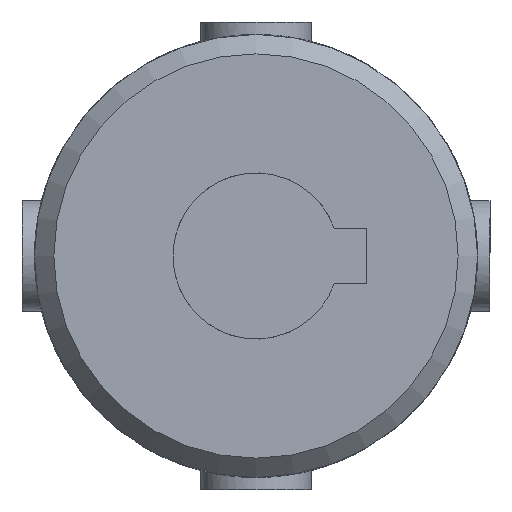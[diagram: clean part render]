
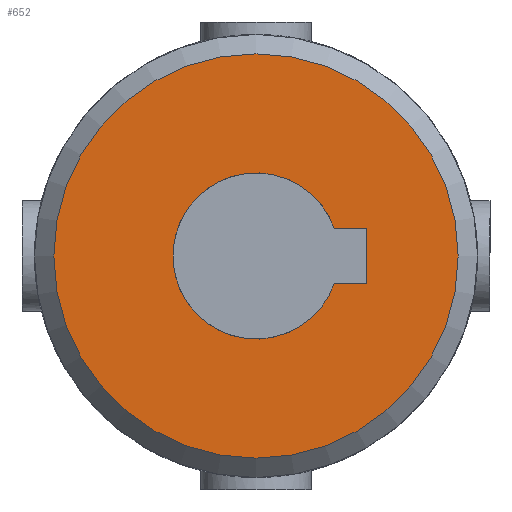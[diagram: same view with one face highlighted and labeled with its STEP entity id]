
A CAD part, front view. The second image highlights one B-rep face of the part: STEP entity #652.
In plain terms, the highlighted planar face has unit normal (0, -1, 0).
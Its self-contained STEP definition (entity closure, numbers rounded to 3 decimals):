
#79=LINE('',#993,#110);
#81=LINE('',#1001,#112);
#83=LINE('',#1009,#114);
#110=VECTOR('',#814,1.172);
#112=VECTOR('',#818,2.);
#114=VECTOR('',#822,1.172);
#141=PLANE('',#710);
#164=FACE_BOUND('',#245,.T.);
#190=FACE_OUTER_BOUND('',#244,.T.);
#244=EDGE_LOOP('',(#522));
#245=EDGE_LOOP('',(#523,#524,#525,#526));
#281=CIRCLE('',#705,3.);
#283=CIRCLE('',#708,7.3);
#317=VERTEX_POINT('',#990);
#318=VERTEX_POINT('',#992);
#320=VERTEX_POINT('',#1000);
#322=VERTEX_POINT('',#1008);
#324=VERTEX_POINT('',#1017);
#385=EDGE_CURVE('',#318,#317,#79,.T.);
#388=EDGE_CURVE('',#320,#318,#81,.T.);
#391=EDGE_CURVE('',#322,#320,#83,.T.);
#394=EDGE_CURVE('',#317,#322,#281,.T.);
#396=EDGE_CURVE('',#324,#324,#283,.T.);
#522=ORIENTED_EDGE('',*,*,#396,.F.);
#523=ORIENTED_EDGE('',*,*,#391,.T.);
#524=ORIENTED_EDGE('',*,*,#388,.T.);
#525=ORIENTED_EDGE('',*,*,#385,.T.);
#526=ORIENTED_EDGE('',*,*,#394,.T.);
#652=ADVANCED_FACE('',(#190,#164),#141,.F.);
#705=AXIS2_PLACEMENT_3D('',#1013,#828,#829);
#708=AXIS2_PLACEMENT_3D('',#1018,#834,#835);
#710=AXIS2_PLACEMENT_3D('',#1186,#842,#843);
#814=DIRECTION('',(0.,0.,1.));
#818=DIRECTION('',(-1.,0.,0.));
#822=DIRECTION('',(0.,0.,-1.));
#828=DIRECTION('center_axis',(0.,1.,0.));
#829=DIRECTION('ref_axis',(-0.333,0.,0.943));
#834=DIRECTION('center_axis',(0.,1.,0.));
#835=DIRECTION('ref_axis',(1.,0.,0.));
#842=DIRECTION('center_axis',(0.,1.,0.));
#843=DIRECTION('ref_axis',(0.,0.,1.));
#990=CARTESIAN_POINT('',(-1.,-21.,-2.828));
#992=CARTESIAN_POINT('',(-1.,-21.,-4.));
#993=CARTESIAN_POINT('',(-1.,-21.,-2.));
#1000=CARTESIAN_POINT('',(1.,-21.,-4.));
#1001=CARTESIAN_POINT('',(0.5,-21.,-4.));
#1008=CARTESIAN_POINT('',(1.,-21.,-2.828));
#1009=CARTESIAN_POINT('',(1.,-21.,-1.414));
#1013=CARTESIAN_POINT('Origin',(0.,-21.,0.));
#1017=CARTESIAN_POINT('',(-7.3,-21.,0.));
#1018=CARTESIAN_POINT('Origin',(0.,-21.,0.));
#1186=CARTESIAN_POINT('Origin',(0.,-21.,0.));
